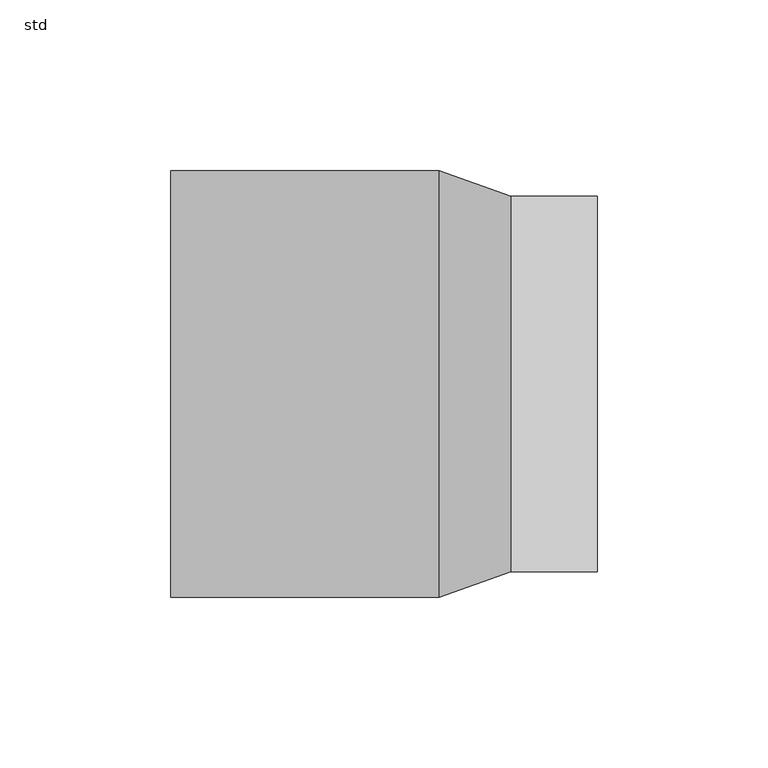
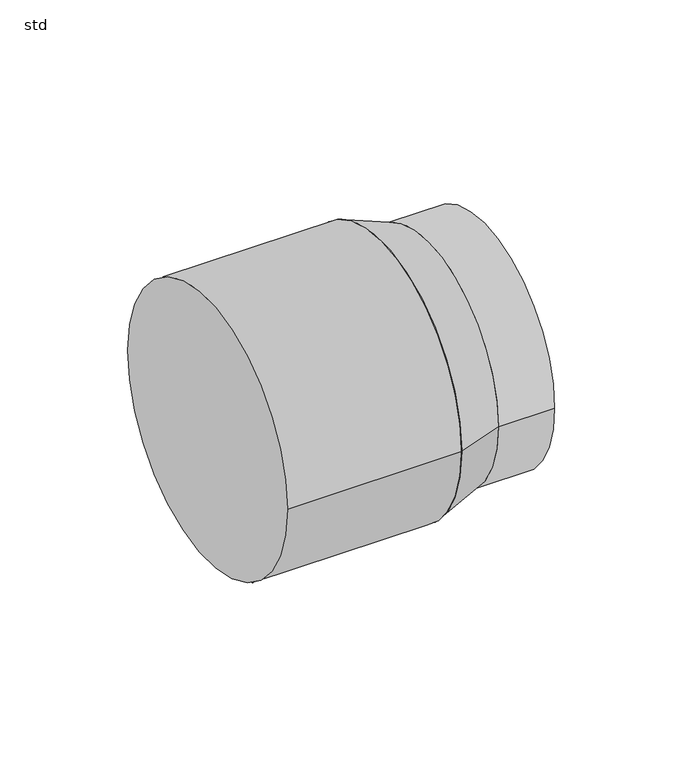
"""IFC4 building model written with IfcOpenShell, lengths in millimetres: pipe fitting geometry, ZZZ_do not use_PIF_ST_UN_ACO pipe increaser coupling_ACO : std."""

import ifcopenshell
import ifcopenshell.guid

model = None  # the IFC model being written
_history = None  # IfcOwnerHistory: only IFC2X3 demands one
_inside = {}  # id of a spatial element -> (the spatial element, [elements in it])
_under = {}  # id of a project, library or spatial element -> (it, [spatial elements below it])
_declared = {}  # id of a project -> (the project, [libraries it declares])
_typed = {}  # id of a type object -> (the type object, [elements of that type])
_made_of = {}  # id of a material, layer set ... -> (it, [elements and type objects made of it])


def new_model(schema):
    """Start an empty IFC model of exactly this schema.

    Asked for "IFC4X3", IfcOpenShell would pick the latest addendum, in which some entities
    have other attributes; the version numbers below select the first issue.
    IFC2X3 requires an IfcOwnerHistory on every rooted entity: one is made here for all.
    """
    global model, _history
    if schema == "IFC4X3":
        model = ifcopenshell.file(schema_version=(4, 3, 0, 0))
    else:
        model = ifcopenshell.file(schema=schema)
    _inside.clear()
    _under.clear()
    _declared.clear()
    _typed.clear()
    _made_of.clear()
    _history = None
    if model.schema == "IFC2X3":
        org = make("IfcOrganization", Name="unknown")
        user = make(
            "IfcPersonAndOrganization",
            ThePerson=make("IfcPerson", FamilyName="unknown"),
            TheOrganization=org,
        )
        app = make(
            "IfcApplication",
            ApplicationDeveloper=org,
            Version="unknown",
            ApplicationFullName="unknown",
            ApplicationIdentifier="unknown",
        )
        _history = make(
            "IfcOwnerHistory",
            OwningUser=user,
            OwningApplication=app,
            ChangeAction="ADDED",
            CreationDate=0,
        )
    return model


def make(cls, **values):
    """One entity of the class cls with the attributes given. An attribute that is None is left unset."""
    return model.create_entity(
        cls, **{name: value for name, value in values.items() if value is not None}
    )


def rooted(cls, **values):
    """An entity with a GlobalId (a new one), such as an element, a storey or a relation."""
    return make(cls, GlobalId=ifcopenshell.guid.new(), OwnerHistory=_history, **values)


def si_unit(unit_type, name, prefix=None):
    """IfcSIUnit, for example si_unit("LENGTHUNIT", "METRE", prefix="MILLI")."""
    return make("IfcSIUnit", UnitType=unit_type, Prefix=prefix, Name=name)


def assignment(units):
    """IfcUnitAssignment: the units of a project."""
    return None if units is None else make("IfcUnitAssignment", Units=units)


def point(xyz):
    """IfcCartesianPoint."""
    return None if xyz is None else make("IfcCartesianPoint", Coordinates=xyz)


def direction(xyz):
    """IfcDirection."""
    return None if xyz is None else make("IfcDirection", DirectionRatios=xyz)


def frame(location, z_axis=None, x_axis=None):
    """IfcAxis2Placement3D, a coordinate frame: its origin and axes. An axis left out is left unset."""
    return make(
        "IfcAxis2Placement3D",
        Location=point(location),
        Axis=direction(z_axis),
        RefDirection=direction(x_axis),
    )


def frame_2d(location, x_axis=None):
    """IfcAxis2Placement2D, a coordinate frame in the plane: its origin and x axis."""
    return make(
        "IfcAxis2Placement2D", Location=point(location), RefDirection=direction(x_axis)
    )


def origin():
    """The frame at (0, 0, 0) with its axes left unset."""
    return frame((0.0, 0.0, 0.0))


def origin_2d():
    """The frame at (0, 0) in the plane with its x axis left unset."""
    return frame_2d((0.0, 0.0))


def place(relative_to, where):
    """IfcLocalPlacement: puts the frame where relative to a parent placement (None: the world)."""
    return make(
        "IfcLocalPlacement", PlacementRelTo=relative_to, RelativePlacement=where
    )


def context(
    kind, dimensions, precision=None, world=None, true_north=None, identifier=None
):
    """IfcGeometricRepresentationContext, for example the 3D "Model" context."""
    return make(
        "IfcGeometricRepresentationContext",
        ContextIdentifier=identifier,
        ContextType=kind,
        CoordinateSpaceDimension=dimensions,
        Precision=precision,
        WorldCoordinateSystem=world,
        TrueNorth=true_north,
    )


def project(units=None, contexts=None):
    """IfcProject with its units and contexts."""
    return rooted(
        "IfcProject",
        Name="project",
        RepresentationContexts=contexts,
        UnitsInContext=assignment(units),
    )


def spatial(cls, under=None, at=None, **own):
    """A site, building, storey or space (cls), placed at a placement, below another one or the project."""
    s = rooted(cls, ObjectPlacement=at, **own)
    if under is not None:
        _under.setdefault(under.id(), (under, []))[1].append(s)
    return s


def polyline(points):
    """IfcPolyline through the points."""
    return make("IfcPolyline", Points=[point(p) for p in points])


def circle_curve(where, radius):
    """IfcCircle in the frame where."""
    return make("IfcCircle", Position=where, Radius=radius)


def trimmed(basis, trim1, trim2, sense, master):
    """IfcTrimmedCurve: the piece of a basis curve between two trims."""
    return make(
        "IfcTrimmedCurve",
        BasisCurve=basis,
        Trim1=trim1,
        Trim2=trim2,
        SenseAgreement=sense,
        MasterRepresentation=master,
    )


def segment(curve, same_sense, transition):
    """IfcCompositeCurveSegment."""
    return make(
        "IfcCompositeCurveSegment",
        Transition=transition,
        SameSense=same_sense,
        ParentCurve=curve,
    )


def composite_curve(segments, self_intersect=None):
    """IfcCompositeCurve: segments joined end to end."""
    return make("IfcCompositeCurve", Segments=segments, SelfIntersect=self_intersect)


def outline(outer, holes=None, kind="AREA"):
    """IfcArbitraryClosedProfileDef: a profile drawn as a closed curve; with holes, ...WithVoids."""
    if holes is None:
        return make("IfcArbitraryClosedProfileDef", ProfileType=kind, OuterCurve=outer)
    return make(
        "IfcArbitraryProfileDefWithVoids",
        ProfileType=kind,
        OuterCurve=outer,
        InnerCurves=holes,
    )


def extrude(swept, where, along, depth):
    """IfcExtrudedAreaSolid: the profile swept, set in the frame where, extruded along a direction by depth."""
    return make(
        "IfcExtrudedAreaSolid",
        SweptArea=swept,
        Position=where,
        ExtrudedDirection=direction(along),
        Depth=depth,
    )


def shape(context_of_items, identifier, shape_type, items):
    """IfcShapeRepresentation: the items that make up one representation, for example the "Body"."""
    return make(
        "IfcShapeRepresentation",
        ContextOfItems=context_of_items,
        RepresentationIdentifier=identifier,
        RepresentationType=shape_type,
        Items=items,
    )


def source(mapping_origin, context_of_items, identifier, shape_type, items):
    """IfcRepresentationMap: a shape defined once, which mapped items show again and again."""
    return make(
        "IfcRepresentationMap",
        MappingOrigin=mapping_origin,
        MappedRepresentation=shape(context_of_items, identifier, shape_type, items),
    )


def transform(
    local_origin,
    x_axis=None,
    y_axis=None,
    z_axis=None,
    scale=None,
    scale2=None,
    scale3=None,
    uniform=True,
):
    """IfcCartesianTransformationOperator3D, or its non-uniform kind. x_axis, y_axis, z_axis: its Axis1, 2, 3."""
    if uniform:
        return make(
            "IfcCartesianTransformationOperator3D",
            Axis1=direction(x_axis),
            Axis2=direction(y_axis),
            LocalOrigin=point(local_origin),
            Scale=scale,
            Axis3=direction(z_axis),
        )
    return make(
        "IfcCartesianTransformationOperator3DnonUniform",
        Axis1=direction(x_axis),
        Axis2=direction(y_axis),
        LocalOrigin=point(local_origin),
        Scale=scale,
        Axis3=direction(z_axis),
        Scale2=scale2,
        Scale3=scale3,
    )


def mapped(mapping_source, mapping_target):
    """IfcMappedItem: shows the shape of a source again, moved by a transform."""
    return make(
        "IfcMappedItem", MappingSource=mapping_source, MappingTarget=mapping_target
    )


def made_of(thing, what):
    """Note that an element or type object is made of a material, layer set ...; save() writes the relation."""
    if what is not None:
        _made_of.setdefault(what.id(), (what, []))[1].append(thing)
    return thing


def element(
    cls,
    number,
    at=None,
    inside=None,
    cuts=None,
    type_object=None,
    material=None,
    context=None,
    identifier="Body",
    shape_type=None,
    held_by="IfcProductDefinitionShape",
    body=None,
    shapes=None,
    **own,
):
    """One element of the class cls, such as IfcWall. Its Tag is "e" and its number.

    at: its placement. inside: the storey or other place that contains it. cuts: it is an
    opening in that element (IfcRelVoidsElement). A single representation is given by context,
    identifier, shape_type and body (its items); several are given by shapes. held_by: the class
    of the entity that holds the representations. save() writes the other relations.
    """
    e = rooted(cls, Tag="e%d" % number, ObjectPlacement=at, **own)
    if body is not None:
        shapes = [shape(context, identifier, shape_type, body)]
    if shapes is not None:
        e.Representation = make(held_by, Representations=shapes)
    if inside is not None:
        _inside.setdefault(inside.id(), (inside, []))[1].append(e)
    if cuts is not None:
        rooted(
            "IfcRelVoidsElement", RelatingBuildingElement=cuts, RelatedOpeningElement=e
        )
    if type_object is not None:
        _typed.setdefault(type_object.id(), (type_object, []))[1].append(e)
    return made_of(e, material)


def aggregate(whole, parts):
    """IfcRelAggregates: a whole, such as a stair, and the parts it consists of."""
    return rooted("IfcRelAggregates", RelatingObject=whole, RelatedObjects=parts)


def save(model, path):
    """Write the relations noted so far, then the file.

    IfcRelAggregates (storeys below a building ...), IfcRelContainedInSpatialStructure (elements
    in a storey), IfcRelDefinesByType, IfcRelAssociatesMaterial and IfcRelDeclares: one each for
    every whole, place, type object, material and project.
    """
    for whole, parts in _under.values():
        aggregate(whole, parts)
    for where, things in _inside.values():
        rooted(
            "IfcRelContainedInSpatialStructure",
            RelatedElements=things,
            RelatingStructure=where,
        )
    for kind, things in _typed.values():
        rooted("IfcRelDefinesByType", RelatedObjects=things, RelatingType=kind)
    for what, things in _made_of.values():
        rooted("IfcRelAssociatesMaterial", RelatedObjects=things, RelatingMaterial=what)
    for by, libraries in _declared.values():
        rooted("IfcRelDeclares", RelatingContext=by, RelatedDefinitions=libraries)
    model.write(path)


def plane_surface(at):
    """IfcPlane: the flat surface through the origin of the frame at, square to its z axis."""
    return make("IfcPlane", Position=at)


def revolved_surface(curve, axis_point, axis_direction):
    """IfcSurfaceOfRevolution: the curve turned about the line through axis_point along axis_direction."""
    return make(
        "IfcSurfaceOfRevolution",
        SweptCurve=make("IfcArbitraryOpenProfileDef", ProfileType="CURVE", Curve=curve),
        AxisPosition=make("IfcAxis1Placement", Location=point(axis_point), Axis=direction(axis_direction)),
    )


def advanced_brep(points, edges, surfaces, faces):
    """IfcAdvancedBrep: a solid bounded by faces that lie on surfaces and meet in shared edges.

    An edge is (start, end): straight between two places in points (the first is 0);
    or (start, end, curve); or (start, end, curve, False) where it runs against its curve.
    A face is (place in surfaces, loops), or (place, loops, False) where it looks against
    its surface's normal. A loop lists edges by number (the first is 1), with a minus sign
    where the edge is run from its end to its start. The first loop is the outer one.
    """
    corners = [point(p) for p in points]
    vertices = [make("IfcVertexPoint", VertexGeometry=c) for c in corners]
    made = []
    for start, end, *more in edges:
        made.append(
            make(
                "IfcEdgeCurve",
                EdgeStart=vertices[start],
                EdgeEnd=vertices[end],
                EdgeGeometry=more[0] if more else make("IfcPolyline", Points=[corners[start], corners[end]]),
                SameSense=more[1] if len(more) > 1 else True,
            )
        )
    hull = []
    for where, loops, *sense in faces:
        bounds = []
        for j, loop in enumerate(loops):
            ring = [make("IfcOrientedEdge", EdgeElement=made[abs(k) - 1], Orientation=k > 0) for k in loop]
            bounds.append(
                make(
                    "IfcFaceOuterBound" if j == 0 else "IfcFaceBound",
                    Bound=make("IfcEdgeLoop", EdgeList=ring),
                    Orientation=True,
                )
            )
        hull.append(make("IfcAdvancedFace", Bounds=bounds, FaceSurface=surfaces[where], SameSense=sense[0] if sense else True))
    return make("IfcAdvancedBrep", Outer=make("IfcClosedShell", CfsFaces=hull))


def std_4da191fa(model_context):
    return source(origin(), model_context, "Body", "SolidModel", [
        advanced_brep(
        [(37.0833333, -55.0, 0.0), (37.0833333, 55.0, 0.0), (16.25, -62.5, 0.0), (16.25, 62.5, 0.0)],
        [
            (0, 1, circle_curve(frame((37.0833333, 0.0, 0.0), z_axis=(1.0, -1.0460496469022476e-12, 0.0), x_axis=(-1.0459161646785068e-12, -1.0, 0.0)), 55.0)),
            (1, 0, circle_curve(frame((37.0833333, 0.0, 0.0), z_axis=(1.0, -1.0460496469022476e-12, 0.0), x_axis=(1.0459161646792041e-12, 1.0, 0.0)), 55.0)),
            (2, 3, circle_curve(frame((16.25, 0.0, 0.0), z_axis=(-1.0, 1.0460496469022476e-12, 0.0), x_axis=(1.0459161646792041e-12, 1.0, 0.0)), 62.5)),
            (3, 2, circle_curve(frame((16.25, 0.0, 0.0), z_axis=(-1.0, 1.0460496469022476e-12, 0.0), x_axis=(-1.0459161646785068e-12, -1.0, 0.0)), 62.5)),
            (3, 1),
            (0, 2),
        ],
        [
            plane_surface(frame((37.0833333, 0.0, 0.0), z_axis=(1.0, 0.0, 0.0), x_axis=(0.0, 0.0, -1.0))),
            plane_surface(frame((16.25, 0.0, 0.0), z_axis=(-1.0, 0.0, 0.0), x_axis=(0.0, 0.0, -1.0))),
            revolved_surface(polyline([(37.08333329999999, -55.00000001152, 0.0), (16.24999999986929, -62.50000000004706, 0.0)]), (189.8611111, 0.0, 0.0), (-1.0, 1.0460496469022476e-12, 0.0)),
            revolved_surface(polyline([(37.083333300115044, 55.00000001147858, 0.0), (16.25, 62.5, 0.0)]), (189.8611111, 0.0, 0.0), (-1.0, 1.0460496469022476e-12, 0.0)),
        ],
        [
            (0, [[1, 2]]),
            (1, [[3, 4]]),
            (2, [[-4, 5, -1, 6]]),
            (3, [[-3, -6, -2, -5]]),
        ],
    ),
        extrude(outline(composite_curve([segment(trimmed(circle_curve(origin_2d(), 55.0), [point((55.0, 0.0))], [point((-55.0, 0.0))], False, "CARTESIAN"), True, "CONTINUOUS"), segment(trimmed(circle_curve(origin_2d(), 55.0), [point((-55.0, 0.0))], [point((55.0, 0.0))], False, "CARTESIAN"), True, "CONTINUOUS")], self_intersect=False)), frame((37.0833333, 0.0, 0.0), z_axis=(1.0, 0.0, 0.0), x_axis=(0.0, 1.0, 0.0)), (0.0, 0.0, 1.0), 25.4166667),
        extrude(outline(composite_curve([segment(trimmed(circle_curve(origin_2d(), 62.5), [point((-62.5, 0.0))], [point((62.5, 0.0))], False, "CARTESIAN"), True, "CONTINUOUS"), segment(trimmed(circle_curve(origin_2d(), 62.5), [point((62.5, 0.0))], [point((-62.5, 0.0))], False, "CARTESIAN"), True, "CONTINUOUS")], self_intersect=False)), frame((-62.5, 0.0, 0.0), z_axis=(1.0, 0.0, 0.0), x_axis=(0.0, 1.0, 0.0)), (0.0, 0.0, 1.0), 78.75),
    ])


if __name__ == "__main__":
    model = new_model("IFC4")
    model_context = context("Model", 3, world=origin())
    ifc_project = project(units=[si_unit("LENGTHUNIT", "METRE", prefix="MILLI")], contexts=[model_context])
    site = spatial("IfcSite", under=ifc_project)
    building = spatial("IfcBuilding", under=site)
    placement = place(None, origin())
    std_shape = std_4da191fa(model_context)
    element("IfcPipeFitting", 1, ObjectType="ZZZ_do not use_PIF_ST_UN_ACO pipe increaser coupling_ACO : std", at=placement, inside=building, context=model_context, shape_type="MappedRepresentation", body=[
        mapped(std_shape, transform((0.0, 0.0, 0.0), x_axis=(1.0, 0.0, 0.0), y_axis=(0.0, 1.0, 0.0), z_axis=(0.0, 0.0, 1.0))),
    ])
    save(model, "model.ifc")
